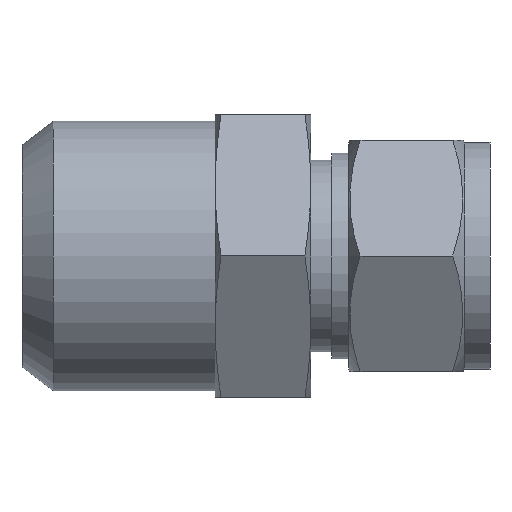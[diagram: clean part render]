
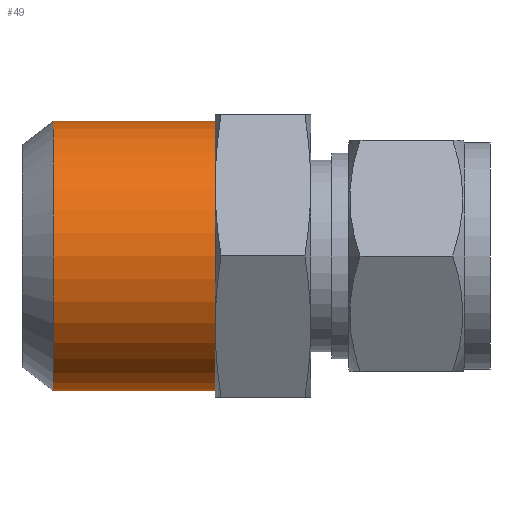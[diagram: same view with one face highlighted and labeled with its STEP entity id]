
A CAD part, front view. The second image highlights one B-rep face of the part: STEP entity #49.
In plain terms, the highlighted cylindrical face has radius 16.7 mm (diameter 33.4 mm), a partial arc.
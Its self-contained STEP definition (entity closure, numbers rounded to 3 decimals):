
#49 = ADVANCED_FACE ( 'NONE', ( #603 ), #598, .T. ) ;
#66 = EDGE_LOOP ( 'NONE', ( #131, #132, #133, #128 ) ) ;
#128 = ORIENTED_EDGE ( 'NONE', *, *, #129, .T. ) ;
#129 = EDGE_CURVE ( 'NONE', #383, #384, #726, .T. ) ;
#131 = ORIENTED_EDGE ( 'NONE', *, *, #382, .F. ) ;
#132 = ORIENTED_EDGE ( 'NONE', *, *, #338, .F. ) ;
#133 = ORIENTED_EDGE ( 'NONE', *, *, #452, .T. ) ;
#338 = EDGE_CURVE ( 'NONE', #377, #454, #1143, .T. ) ;
#377 = VERTEX_POINT ( 'NONE', #1180 ) ;
#382 = EDGE_CURVE ( 'NONE', #454, #384, #1217, .T. ) ;
#383 = VERTEX_POINT ( 'NONE', #1213 ) ;
#384 = VERTEX_POINT ( 'NONE', #1212 ) ;
#452 = EDGE_CURVE ( 'NONE', #377, #383, #1382, .T. ) ;
#454 = VERTEX_POINT ( 'NONE', #1378 ) ;
#593 = DIRECTION ( 'NONE',  ( 0., 0., -1. ) ) ;
#594 = DIRECTION ( 'NONE',  ( 1., 0., 0. ) ) ;
#595 = CARTESIAN_POINT ( 'NONE',  ( -23.9, 0., 0. ) ) ;
#596 = AXIS2_PLACEMENT_3D ( 'NONE', #595, #594, #593 ) ;
#598 = CYLINDRICAL_SURFACE ( 'NONE', #596, 16.7 ) ;
#603 = FACE_OUTER_BOUND ( 'NONE', #66, .T. ) ;
#719 = DIRECTION ( 'NONE',  ( 0., 0., -1. ) ) ;
#720 = DIRECTION ( 'NONE',  ( -1., 0., 0. ) ) ;
#721 = CARTESIAN_POINT ( 'NONE',  ( 0., 0., 0. ) ) ;
#722 = AXIS2_PLACEMENT_3D ( 'NONE', #721, #720, #719 ) ;
#726 = CIRCLE ( 'NONE', #722, 16.7 ) ;
#1139 = DIRECTION ( 'NONE',  ( 0., 0., -1. ) ) ;
#1140 = DIRECTION ( 'NONE',  ( -1., 0., 0. ) ) ;
#1141 = CARTESIAN_POINT ( 'NONE',  ( -20.055, 0., 0. ) ) ;
#1142 = AXIS2_PLACEMENT_3D ( 'NONE', #1141, #1140, #1139 ) ;
#1143 = CIRCLE ( 'NONE', #1142, 16.7 ) ;
#1180 = CARTESIAN_POINT ( 'NONE',  ( -20.055, 0., -16.7 ) ) ;
#1212 = CARTESIAN_POINT ( 'NONE',  ( 0., 0., 16.7 ) ) ;
#1213 = CARTESIAN_POINT ( 'NONE',  ( 0., 0., -16.7 ) ) ;
#1214 = DIRECTION ( 'NONE',  ( 1., 0., 0. ) ) ;
#1215 = VECTOR ( 'NONE', #1214, 1000. ) ;
#1216 = CARTESIAN_POINT ( 'NONE',  ( -23.9, 0., 16.7 ) ) ;
#1217 = LINE ( 'NONE', #1216, #1215 ) ;
#1378 = CARTESIAN_POINT ( 'NONE',  ( -20.055, 0., 16.7 ) ) ;
#1379 = DIRECTION ( 'NONE',  ( 1., 0., 0. ) ) ;
#1380 = VECTOR ( 'NONE', #1379, 1000. ) ;
#1381 = CARTESIAN_POINT ( 'NONE',  ( -23.9, 0., -16.7 ) ) ;
#1382 = LINE ( 'NONE', #1381, #1380 ) ;
